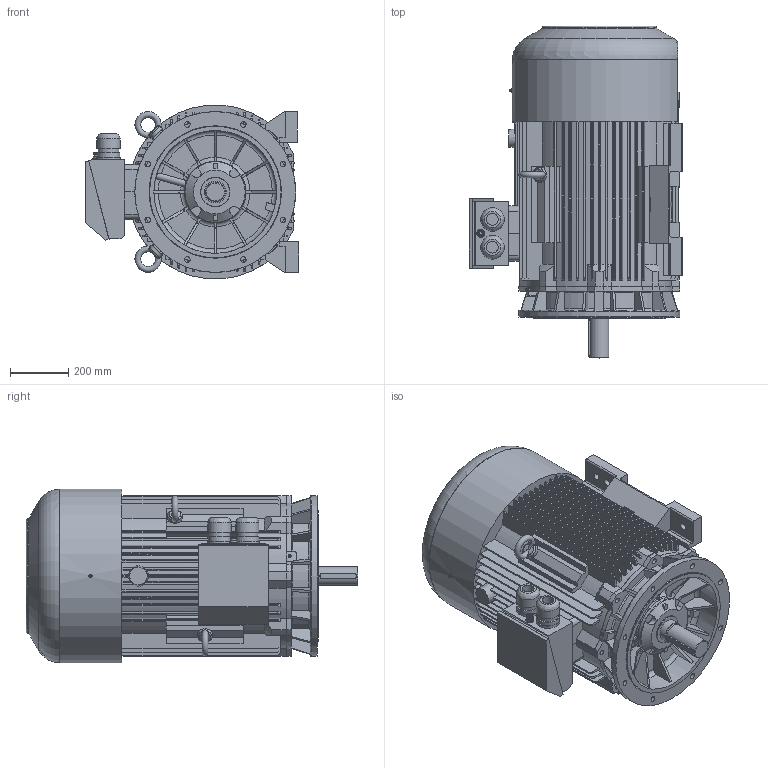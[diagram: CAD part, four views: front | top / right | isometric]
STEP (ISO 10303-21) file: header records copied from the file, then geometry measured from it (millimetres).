
FILE_DESCRIPTION( ( 'Unknown' ), '1' );
FILE_NAME( 'P:/3D_Bry³y silników skatalogowane/SIE/2SIE280/STP_2SIE280/2SIEL280 M_S2.stp', 'Unknown', ( 'Unknown' ), ( 'Unknown' ), 'XStep 1.0', 'Unknown', ' ' );
FILE_SCHEMA( ( 'CONFIG_CONTROL_DESIGN' ) );
Length unit declared in the file: millimetre
Products named in the file (4): 1; 2; 3; 4
Bounding box: 729.3 x 1134.98 x 594.39 mm (x, y, z)
Volume: 228569767.5 mm3; surface area: 5561806.1 mm2
Topology: 4 solids, 5 shells, 1128 faces, 3183 edges, 2106 vertices
Faces by surface type: plane 674, cylinder 269, torus 90, cone 72, bspline 23
Full cylindrical faces by diameter (mm): 1.6 x2, 5 x4, 6 x2, 8.36 x1, 8.4 x1, 8.5 x1, 8.917 x1, 10 x4, 10.106 x2, 11.083 x1, 18 x8, 19 x9, 20.752 x4, 21 x1, 23 x1, 24 x6, 27 x1, 40 x2, 50 x2, 65 x1, 71.32 x2, 74.5 x1, 78.781 x2, 80.024 x2, 81.268 x2, 98.8 x1, 100 x1, 160 x1, 208 x1, 210 x1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
Entity records: 47469 total; most frequent: CARTESIAN_POINT 18978, ORIENTED_EDGE 6034, DIRECTION 5633, EDGE_CURVE 3017, VERTEX_POINT 2051, AXIS2_PLACEMENT_3D 1951, LINE 1731, VECTOR 1731
